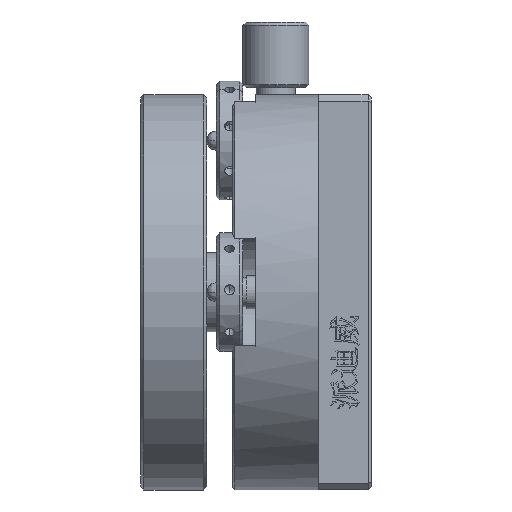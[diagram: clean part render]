
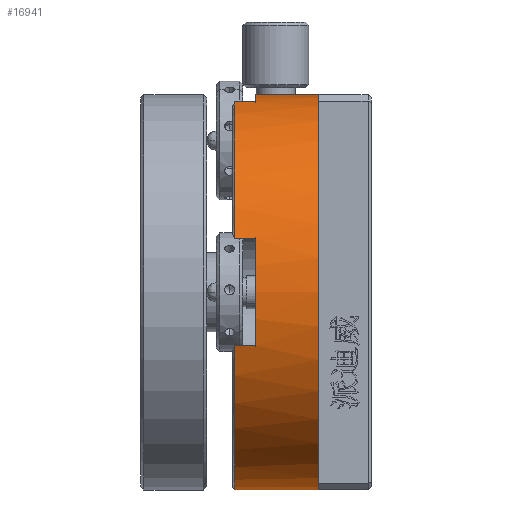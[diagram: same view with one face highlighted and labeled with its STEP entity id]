
A CAD part, left-side view. The second image highlights one B-rep face of the part: STEP entity #16941.
In plain terms, the highlighted cylindrical face has radius 30 mm (diameter 59.999 mm), a partial arc.
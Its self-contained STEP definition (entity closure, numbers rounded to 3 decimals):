
#399 = ORIENTED_EDGE ( 'NONE', *, *, #5129, .T. ) ;
#435 = LINE ( 'NONE', #4969, #23219 ) ;
#598 = CARTESIAN_POINT ( 'NONE',  ( 19.203, 38.192, 49.995 ) ) ;
#1160 = ORIENTED_EDGE ( 'NONE', *, *, #22258, .T. ) ;
#1842 = VERTEX_POINT ( 'NONE', #4087 ) ;
#2619 = CIRCLE ( 'NONE', #27901, 29.999 ) ;
#3069 = DIRECTION ( 'NONE',  ( 0., 0., 1. ) ) ;
#4087 = CARTESIAN_POINT ( 'NONE',  ( 11.122, 38.192, 78.886 ) ) ;
#4411 = CARTESIAN_POINT ( 'NONE',  ( 19.203, 25.492, 79.995 ) ) ;
#4488 = ORIENTED_EDGE ( 'NONE', *, *, #20145, .T. ) ;
#4769 = ORIENTED_EDGE ( 'NONE', *, *, #19094, .T. ) ;
#4969 = CARTESIAN_POINT ( 'NONE',  ( 19.203, 25.492, 19.996 ) ) ;
#5013 = ORIENTED_EDGE ( 'NONE', *, *, #18430, .T. ) ;
#5129 = EDGE_CURVE ( 'NONE', #26102, #1842, #12584, .T. ) ;
#5875 = CARTESIAN_POINT ( 'NONE',  ( -9.688, 25.492, 58.076 ) ) ;
#6246 = EDGE_CURVE ( 'NONE', #12538, #30329, #13172, .T. ) ;
#6252 = DIRECTION ( 'NONE',  ( 0., 0., 1. ) ) ;
#6330 = CIRCLE ( 'NONE', #19008, 29.999 ) ;
#7168 = DIRECTION ( 'NONE',  ( 0., -1., 0. ) ) ;
#8029 = CARTESIAN_POINT ( 'NONE',  ( 19.203, 25.492, 79.995 ) ) ;
#8267 = DIRECTION ( 'NONE',  ( 0., 0., 1. ) ) ;
#9402 = ORIENTED_EDGE ( 'NONE', *, *, #26940, .T. ) ;
#9667 = DIRECTION ( 'NONE',  ( 0., 0., 1. ) ) ;
#10012 = LINE ( 'NONE', #4411, #24353 ) ;
#10049 = CARTESIAN_POINT ( 'NONE',  ( -9.688, 34.992, 41.914 ) ) ;
#10707 = CARTESIAN_POINT ( 'NONE',  ( 11.122, 25.492, 78.886 ) ) ;
#11222 = CIRCLE ( 'NONE', #28875, 29.999 ) ;
#11500 = CARTESIAN_POINT ( 'NONE',  ( 19.203, 34.992, 49.995 ) ) ;
#12083 = VERTEX_POINT ( 'NONE', #29563 ) ;
#12522 = DIRECTION ( 'NONE',  ( 0., -1., 0. ) ) ;
#12538 = VERTEX_POINT ( 'NONE', #26442 ) ;
#12584 = LINE ( 'NONE', #10707, #31632 ) ;
#13172 = CIRCLE ( 'NONE', #19102, 29.999 ) ;
#14289 = CARTESIAN_POINT ( 'NONE',  ( 19.203, 25.492, 49.995 ) ) ;
#14499 = EDGE_LOOP ( 'NONE', ( #22501, #28060, #5013, #9402, #399, #4488, #22893, #1160, #4769, #30521 ) ) ;
#15756 = VERTEX_POINT ( 'NONE', #8029 ) ;
#16148 = CARTESIAN_POINT ( 'NONE',  ( 19.203, 38.192, 19.996 ) ) ;
#16941 = ADVANCED_FACE ( 'NONE', ( #22051 ), #31884, .T. ) ;
#17409 = CARTESIAN_POINT ( 'NONE',  ( 19.203, 34.992, 79.995 ) ) ;
#17707 = DIRECTION ( 'NONE',  ( 0., 1., 0. ) ) ;
#17840 = DIRECTION ( 'NONE',  ( 0., -1., 0. ) ) ;
#18375 = CARTESIAN_POINT ( 'NONE',  ( 19.203, 34.992, 49.995 ) ) ;
#18430 = EDGE_CURVE ( 'NONE', #15756, #20637, #10012, .T. ) ;
#18511 = DIRECTION ( 'NONE',  ( 0., 1., 0. ) ) ;
#19008 = AXIS2_PLACEMENT_3D ( 'NONE', #30010, #12522, #20129 ) ;
#19094 = EDGE_CURVE ( 'NONE', #23951, #12538, #26196, .T. ) ;
#19102 = AXIS2_PLACEMENT_3D ( 'NONE', #598, #17840, #3069 ) ;
#19267 = CARTESIAN_POINT ( 'NONE',  ( 19.203, 25.492, 19.996 ) ) ;
#19653 = EDGE_CURVE ( 'NONE', #15756, #29011, #24588, .T. ) ;
#20129 = DIRECTION ( 'NONE',  ( 0., 0., 1. ) ) ;
#20145 = EDGE_CURVE ( 'NONE', #1842, #12083, #6330, .T. ) ;
#20637 = VERTEX_POINT ( 'NONE', #17409 ) ;
#20939 = CARTESIAN_POINT ( 'NONE',  ( -9.688, 34.992, 58.076 ) ) ;
#20952 = VERTEX_POINT ( 'NONE', #20939 ) ;
#21000 = CARTESIAN_POINT ( 'NONE',  ( 19.203, 25.492, 49.995 ) ) ;
#21062 = DIRECTION ( 'NONE',  ( 0., 0., 1. ) ) ;
#21328 = EDGE_CURVE ( 'NONE', #29011, #30329, #435, .T. ) ;
#21890 = VECTOR ( 'NONE', #28343, 1000. ) ;
#22051 = FACE_OUTER_BOUND ( 'NONE', #14499, .T. ) ;
#22209 = DIRECTION ( 'NONE',  ( 0., 1., 0. ) ) ;
#22258 = EDGE_CURVE ( 'NONE', #20952, #23951, #2619, .T. ) ;
#22501 = ORIENTED_EDGE ( 'NONE', *, *, #21328, .F. ) ;
#22644 = VECTOR ( 'NONE', #18511, 1000. ) ;
#22893 = ORIENTED_EDGE ( 'NONE', *, *, #30847, .T. ) ;
#23219 = VECTOR ( 'NONE', #22209, 1000. ) ;
#23248 = AXIS2_PLACEMENT_3D ( 'NONE', #21000, #26414, #6252 ) ;
#23249 = CARTESIAN_POINT ( 'NONE',  ( 11.122, 34.992, 78.886 ) ) ;
#23483 = DIRECTION ( 'NONE',  ( 0., -1., 0. ) ) ;
#23951 = VERTEX_POINT ( 'NONE', #10049 ) ;
#23991 = DIRECTION ( 'NONE',  ( 0., 1., 0. ) ) ;
#24353 = VECTOR ( 'NONE', #23991, 1000. ) ;
#24588 = CIRCLE ( 'NONE', #29484, 29.999 ) ;
#26102 = VERTEX_POINT ( 'NONE', #23249 ) ;
#26196 = LINE ( 'NONE', #30960, #22644 ) ;
#26414 = DIRECTION ( 'NONE',  ( 0., 1., 0. ) ) ;
#26442 = CARTESIAN_POINT ( 'NONE',  ( -9.688, 38.192, 41.914 ) ) ;
#26940 = EDGE_CURVE ( 'NONE', #20637, #26102, #11222, .T. ) ;
#27901 = AXIS2_PLACEMENT_3D ( 'NONE', #11500, #28896, #21062 ) ;
#28060 = ORIENTED_EDGE ( 'NONE', *, *, #19653, .F. ) ;
#28343 = DIRECTION ( 'NONE',  ( 0., -1., 0. ) ) ;
#28875 = AXIS2_PLACEMENT_3D ( 'NONE', #18375, #23483, #8267 ) ;
#28896 = DIRECTION ( 'NONE',  ( 0., -1., 0. ) ) ;
#29011 = VERTEX_POINT ( 'NONE', #19267 ) ;
#29484 = AXIS2_PLACEMENT_3D ( 'NONE', #14289, #7168, #9667 ) ;
#29563 = CARTESIAN_POINT ( 'NONE',  ( -9.688, 38.192, 58.076 ) ) ;
#30010 = CARTESIAN_POINT ( 'NONE',  ( 19.203, 38.192, 49.995 ) ) ;
#30329 = VERTEX_POINT ( 'NONE', #16148 ) ;
#30521 = ORIENTED_EDGE ( 'NONE', *, *, #6246, .T. ) ;
#30847 = EDGE_CURVE ( 'NONE', #12083, #20952, #30922, .T. ) ;
#30922 = LINE ( 'NONE', #5875, #21890 ) ;
#30960 = CARTESIAN_POINT ( 'NONE',  ( -9.688, 25.492, 41.914 ) ) ;
#31632 = VECTOR ( 'NONE', #17707, 1000. ) ;
#31884 = CYLINDRICAL_SURFACE ( 'NONE', #23248, 29.999 ) ;
